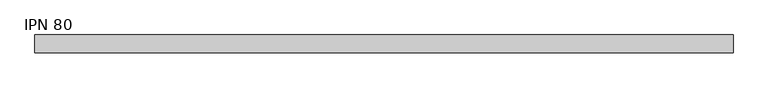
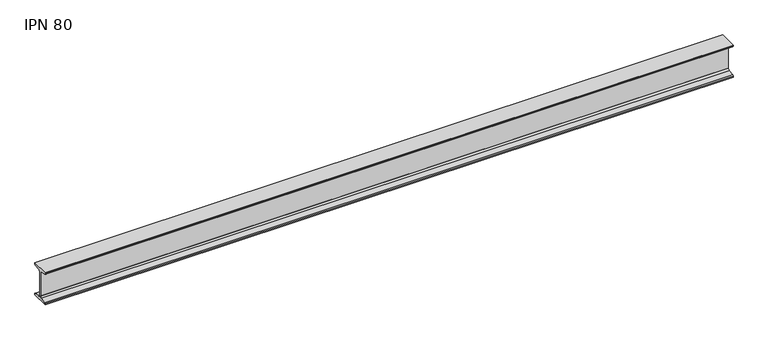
"""IFC4 building model written with IfcOpenShell, lengths in millimetres: beam geometry, IPN - Secciones en I con alas cónicas : IPN 80."""

from ifc_helpers import new_model, si_unit, point, frame, frame_2d, origin, place, context, project, spatial, polyline, circle_curve, trimmed, segment, composite_curve, outline, extrude, source, transform, mapped, element, save


def ipn_80_671c353a(model_context):
    return source(origin(), model_context, "Body", "SweptSolid", [
        extrude(outline(composite_curve([segment(polyline([(21.0, 40.0), (21.0, 37.5704306)]), True, "CONTINUOUS"), segment(trimmed(circle_curve(frame_2d((18.7, 37.5704306)), 2.3), [point((21.0, 37.5704306))], [point((19.01889, 35.2926446))], False, "CARTESIAN"), True, "CONTINUOUS"), segment(polyline([(19.01889, 35.2926446), (5.3092734, 33.3732983)]), True, "CONTINUOUS"), segment(trimmed(circle_curve(frame_2d((5.85, 29.5109655)), 3.9), [point((5.3092734, 33.3732983))], [point((1.95, 29.5109655))], True, "CARTESIAN"), True, "CONTINUOUS"), segment(polyline([(1.95, 29.5109655), (1.95, -29.5109655)]), True, "CONTINUOUS"), segment(trimmed(circle_curve(frame_2d((5.85, -29.5109655)), 3.9), [point((1.95, -29.5109655))], [point((5.3092734, -33.3732983))], True, "CARTESIAN"), True, "CONTINUOUS"), segment(polyline([(5.3092734, -33.3732983), (19.01889, -35.2926446)]), True, "CONTINUOUS"), segment(trimmed(circle_curve(frame_2d((18.7, -37.5704306)), 2.3), [point((19.01889, -35.2926446))], [point((21.0, -37.5704306))], False, "CARTESIAN"), True, "CONTINUOUS"), segment(polyline([(21.0, -37.5704306), (21.0, -40.0), (-21.0, -40.0), (-21.0, -37.5704306)]), True, "CONTINUOUS"), segment(trimmed(circle_curve(frame_2d((-18.7, -37.5704306)), 2.3), [point((-21.0, -37.5704306))], [point((-19.01889, -35.2926446))], False, "CARTESIAN"), True, "CONTINUOUS"), segment(polyline([(-19.01889, -35.2926446), (-5.3092734, -33.3732983)]), True, "CONTINUOUS"), segment(trimmed(circle_curve(frame_2d((-5.85, -29.5109655)), 3.9), [point((-5.3092734, -33.3732983))], [point((-1.95, -29.5109655))], True, "CARTESIAN"), True, "CONTINUOUS"), segment(polyline([(-1.95, -29.5109655), (-1.95, 29.5109655)]), True, "CONTINUOUS"), segment(trimmed(circle_curve(frame_2d((-5.85, 29.5109655)), 3.9), [point((-1.95, 29.5109655))], [point((-5.3092734, 33.3732983))], True, "CARTESIAN"), True, "CONTINUOUS"), segment(polyline([(-5.3092734, 33.3732983), (-19.01889, 35.2926446)]), True, "CONTINUOUS"), segment(trimmed(circle_curve(frame_2d((-18.7, 37.5704306)), 2.3), [point((-19.01889, 35.2926446))], [point((-21.0, 37.5704306))], False, "CARTESIAN"), True, "CONTINUOUS"), segment(polyline([(-21.0, 37.5704306), (-21.0, 40.0), (21.0, 40.0)]), True, "CONTINUOUS")], self_intersect=False)), frame((-810.5, 0.0, 0.0), z_axis=(1.0, 0.0, 0.0), x_axis=(0.0, 1.0, 0.0)), (0.0, 0.0, 1.0), 1625.0),
    ])


if __name__ == "__main__":
    model = new_model("IFC4")
    model_context = context("Model", 3, world=origin())
    ifc_project = project(units=[si_unit("LENGTHUNIT", "METRE", prefix="MILLI")], contexts=[model_context])
    site = spatial("IfcSite", under=ifc_project)
    building = spatial("IfcBuilding", under=site)
    placement = place(None, origin())
    ipn_80_shape = ipn_80_671c353a(model_context)
    element("IfcBeam", 1, ObjectType="IPN - Secciones en I con alas cónicas : IPN 80", at=placement, inside=building, context=model_context, shape_type="MappedRepresentation", body=[
        mapped(ipn_80_shape, transform((0.0, 0.0, 0.0), x_axis=(1.0, 0.0, 0.0), y_axis=(0.0, 1.0, 0.0), z_axis=(0.0, 0.0, 1.0))),
    ])
    save(model, "model.ifc")
